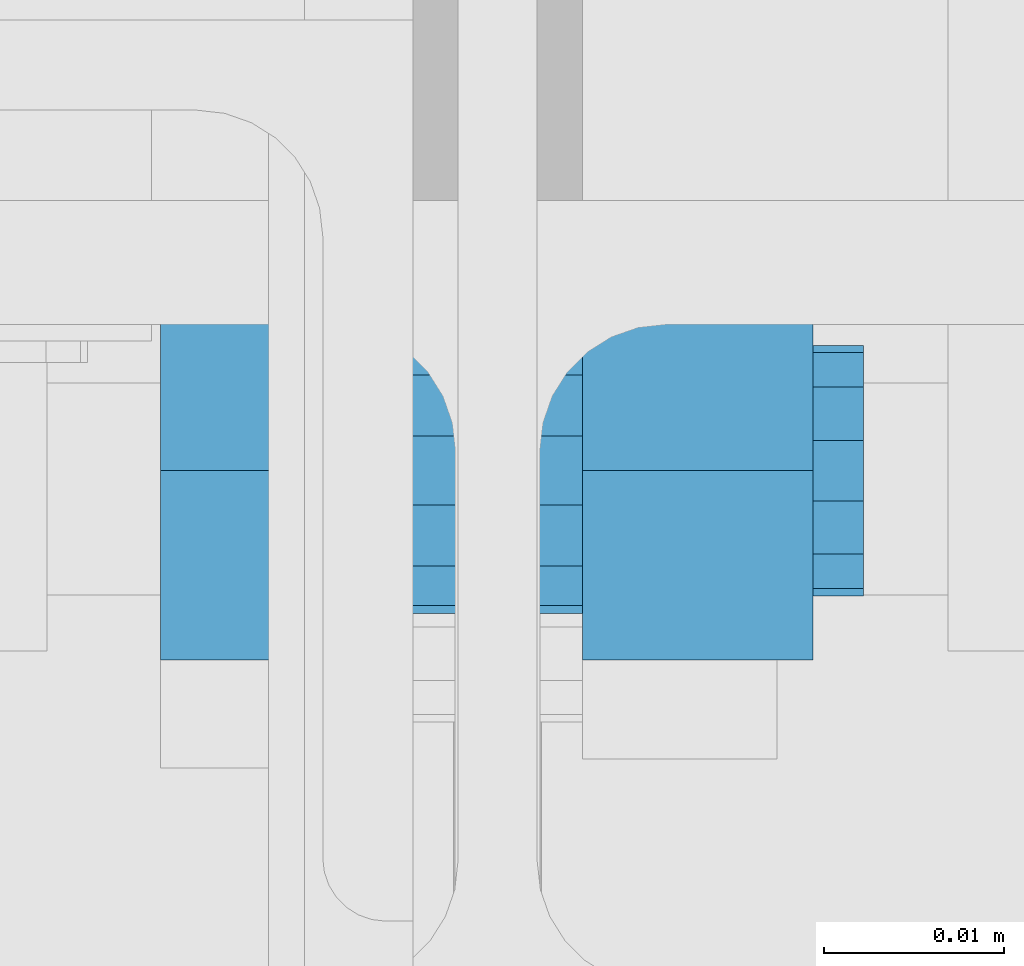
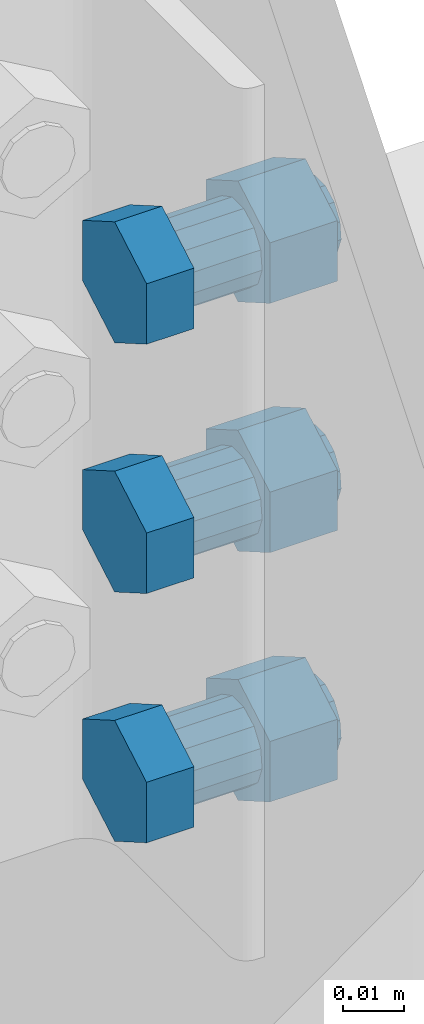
# One storey, part 12 of 18: 1 mechanical fastener.
"""IFC2X3 building model written with IfcOpenShell, lengths in millimetres."""

from ifc_helpers import new_model, si_unit, frame, origin_with_axes, place, context, subcontext, project, spatial, faceted_brep, source, transform, mapped, type_object, element, save


model = new_model("IFC2X3")

# Units and contexts
model_context = context("Model", 3, precision=1e-05, world=origin_with_axes())
body_context = subcontext(model_context, "Body", "Model", "MODEL_VIEW")
ifc_project = project(units=[si_unit("LENGTHUNIT", "METRE", prefix="MILLI"), si_unit("AREAUNIT", "SQUARE_METRE"), si_unit("VOLUMEUNIT", "CUBIC_METRE"), si_unit("MASSUNIT", "GRAM", prefix="KILO"), si_unit("TIMEUNIT", "SECOND"), si_unit("PLANEANGLEUNIT", "RADIAN"), si_unit("SOLIDANGLEUNIT", "STERADIAN"), si_unit("THERMODYNAMICTEMPERATUREUNIT", "DEGREE_CELSIUS"), si_unit("LUMINOUSINTENSITYUNIT", "LUMEN")], contexts=[model_context])

# Site, building, storey
site_placement = place(None, origin_with_axes())
site = spatial("IfcSite", under=ifc_project, at=site_placement, Name="Undefined", CompositionType="ELEMENT")
building_placement = place(site_placement, origin_with_axes())
building = spatial("IfcBuilding", under=site, at=building_placement, Name="Undefined", CompositionType="ELEMENT")
storey_placement = place(building_placement, origin_with_axes())
storey = spatial("IfcBuildingStorey", under=building, at=storey_placement, Name="Undefined", CompositionType="ELEMENT", Elevation=0.0)

# Mechanical fastener
mechanical_fastener_type = type_object("IfcMechanicalFastenerType", Name="Bolt assembly")
shared_shape_1 = source(origin_with_axes(), body_context, "Body", "Brep", [
    faceted_brep([(12.12435565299, -18.700009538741, 0.0), (6.062177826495, -18.700009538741, 10.5000000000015), (-6.062177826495, -18.700009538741, 10.5000000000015), (-12.12435565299, -18.700009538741, 0.0), (-6.062177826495, -18.700009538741, -10.5000000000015), (6.062177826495, -18.700009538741, -10.5000000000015), (6.062177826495, -9.700009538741, -10.5000000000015), (-6.062177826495, -9.700009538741, -10.5000000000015), (-12.12435565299, -9.700009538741, 0.0), (-6.062177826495, -9.700009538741, 10.5000000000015), (6.062177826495, -9.700009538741, 10.5000000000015), (12.12435565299, -9.700009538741, 0.0), (7.0, -9.700009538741, 0.0), (6.19819217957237, -9.700009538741, 3.25306220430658), (3.97645322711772, -9.700009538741, 5.76088706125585), (0.843756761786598, -9.700009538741, 6.94896211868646), (-2.48223420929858, -9.700009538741, 6.54511369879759), (-5.23957523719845, -9.700009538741, 4.64185860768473), (-6.79659272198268, -9.700009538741, 1.67520965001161), (-6.79659272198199, -9.700009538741, -1.67520965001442), (-5.23957523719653, -9.700009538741, -4.6418586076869), (-2.48223420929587, -9.700009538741, -6.54511369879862), (0.843756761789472, -9.700009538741, -6.94896211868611), (3.97645322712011, -9.700009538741, -5.7608870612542), (3.97645322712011, 20.299990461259, -5.7608870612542), (0.843756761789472, 20.299990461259, -6.94896211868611), (-2.48223420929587, 20.299990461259, -6.54511369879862), (-5.23957523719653, 20.299990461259, -4.6418586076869), (-6.79659272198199, 20.299990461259, -1.67520965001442), (-6.79659272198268, 20.299990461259, 1.67520965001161), (-5.23957523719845, 20.299990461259, 4.64185860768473), (-2.48223420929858, 20.299990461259, 6.54511369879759), (0.843756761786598, 20.299990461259, 6.94896211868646), (3.97645322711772, 20.299990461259, 5.76088706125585), (6.19819217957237, 20.299990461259, 3.25306220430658), (7.0, 20.299990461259, 0.0), (12.12435565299, 4.69999008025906, 0.0), (6.062177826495, 4.69999008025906, 10.5000000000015), (-6.062177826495, 4.69999008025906, 10.5000000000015), (-12.12435565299, 4.69999008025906, 0.0), (-6.062177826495, 4.69999008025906, -10.5000000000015), (6.062177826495, 4.69999008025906, -10.5000000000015), (6.062177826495, 17.4999902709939, -10.5000000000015), (-6.062177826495, 17.4999902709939, -10.5000000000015), (-12.12435565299, 17.4999902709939, 0.0), (-6.062177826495, 17.4999902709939, 10.5000000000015), (6.062177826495, 17.4999902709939, 10.5000000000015), (12.12435565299, 17.4999902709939, 0.0)], [[[0, 1, 2, 3, 4, 5]], [[6, 7, 8, 9, 10, 11]], [[0, 11, 10, 1]], [[1, 10, 9, 2]], [[2, 9, 8, 3]], [[3, 8, 7, 4]], [[4, 7, 6, 5]], [[5, 6, 11, 0]], [[12, 13, 14, 15, 16, 17, 18, 19, 20, 21, 22, 23]], [[24, 25, 26, 27, 28, 29, 30, 31, 32, 33, 34, 35]], [[12, 35, 34, 13]], [[13, 34, 33, 14]], [[14, 33, 32, 15]], [[15, 32, 31, 16]], [[16, 31, 30, 17]], [[17, 30, 29, 18]], [[18, 29, 28, 19]], [[19, 28, 27, 20]], [[20, 27, 26, 21]], [[21, 26, 25, 22]], [[22, 25, 24, 23]], [[23, 24, 35, 12]], [[36, 37, 38, 39, 40, 41]], [[42, 43, 44, 45, 46, 47]], [[36, 47, 46, 37]], [[37, 46, 45, 38]], [[38, 45, 44, 39]], [[39, 44, 43, 40]], [[40, 43, 42, 41]], [[41, 42, 47, 36]]]),
    faceted_brep([(8.0, -4.80000953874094, 0.0), (7.08364820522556, -4.80000953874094, 3.71778537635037), (4.54451797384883, -4.80000953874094, 6.58387092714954), (0.964293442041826, -4.80000953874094, 7.94167099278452), (-2.83683909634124, -4.80000953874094, 7.48012994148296), (-5.98808598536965, -4.80000953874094, 5.30498126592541), (-7.76753453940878, -4.80000953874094, 1.91452531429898), (-7.76753453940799, -4.80000953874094, -1.91452531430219), (-5.98808598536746, -4.80000953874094, -5.30498126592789), (-2.83683909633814, -4.80000953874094, -7.48012994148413), (0.964293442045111, -4.80000953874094, -7.94167099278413), (4.54451797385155, -4.80000953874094, -6.58387092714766), (4.54451797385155, 4.69999008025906, -6.58387092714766), (0.964293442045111, 4.69999008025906, -7.94167099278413), (-2.83683909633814, 4.69999008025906, -7.48012994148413), (-5.98808598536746, 4.69999008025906, -5.30498126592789), (-7.76753453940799, 4.69999008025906, -1.91452531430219), (-7.76753453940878, 4.69999008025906, 1.91452531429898), (-5.98808598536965, 4.69999008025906, 5.30498126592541), (-2.83683909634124, 4.69999008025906, 7.48012994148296), (0.964293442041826, 4.69999008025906, 7.94167099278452), (4.54451797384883, 4.69999008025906, 6.58387092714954), (7.08364820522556, 4.69999008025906, 3.71778537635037), (8.0, 4.69999008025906, 0.0), (8.0, -9.600009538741, 0.0), (7.08364820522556, -9.600009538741, 3.71778537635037), (4.54451797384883, -9.600009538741, 6.58387092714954), (0.964293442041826, -9.600009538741, 7.94167099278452), (-2.83683909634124, -9.600009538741, 7.48012994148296), (-5.98808598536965, -9.600009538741, 5.30498126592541), (-7.76753453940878, -9.600009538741, 1.91452531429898), (-7.76753453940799, -9.600009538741, -1.91452531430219), (-5.98808598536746, -9.600009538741, -5.30498126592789), (-2.83683909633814, -9.600009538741, -7.48012994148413), (0.964293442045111, -9.600009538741, -7.94167099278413), (4.54451797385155, -9.600009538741, -6.58387092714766), (4.54451797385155, -4.600009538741, -6.58387092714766), (0.964293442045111, -4.600009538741, -7.94167099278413), (-2.83683909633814, -4.600009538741, -7.48012994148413), (-5.98808598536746, -4.600009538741, -5.30498126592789), (-7.76753453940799, -4.600009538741, -1.91452531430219), (-7.76753453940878, -4.600009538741, 1.91452531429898), (-5.98808598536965, -4.600009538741, 5.30498126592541), (-2.83683909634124, -4.600009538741, 7.48012994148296), (0.964293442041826, -4.600009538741, 7.94167099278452), (4.54451797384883, -4.600009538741, 6.58387092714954), (7.08364820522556, -4.600009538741, 3.71778537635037), (8.0, -4.600009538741, 0.0)], [[[0, 1, 2, 3, 4, 5, 6, 7, 8, 9, 10, 11]], [[12, 13, 14, 15, 16, 17, 18, 19, 20, 21, 22, 23]], [[0, 23, 22, 1]], [[1, 22, 21, 2]], [[2, 21, 20, 3]], [[3, 20, 19, 4]], [[4, 19, 18, 5]], [[5, 18, 17, 6]], [[6, 17, 16, 7]], [[7, 16, 15, 8]], [[8, 15, 14, 9]], [[9, 14, 13, 10]], [[10, 13, 12, 11]], [[11, 12, 23, 0]], [[24, 25, 26, 27, 28, 29, 30, 31, 32, 33, 34, 35]], [[36, 37, 38, 39, 40, 41, 42, 43, 44, 45, 46, 47]], [[24, 47, 46, 25]], [[25, 46, 45, 26]], [[26, 45, 44, 27]], [[27, 44, 43, 28]], [[28, 43, 42, 29]], [[29, 42, 41, 30]], [[30, 41, 40, 31]], [[31, 40, 39, 32]], [[32, 39, 38, 33]], [[33, 38, 37, 34]], [[34, 37, 36, 35]], [[35, 36, 47, 24]]]),
])
shared_shape_2 = source(origin_with_axes(), body_context, "Body", "Brep", [
    faceted_brep([(12.12435565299, -18.700009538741, 0.0), (6.062177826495, -18.700009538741, 10.5000000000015), (-6.062177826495, -18.700009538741, 10.5000000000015), (-12.12435565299, -18.700009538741, 0.0), (-6.062177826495, -18.700009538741, -10.5000000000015), (6.062177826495, -18.700009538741, -10.5000000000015), (6.062177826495, -9.700009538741, -10.5000000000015), (-6.062177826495, -9.700009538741, -10.5000000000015), (-12.12435565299, -9.700009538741, 0.0), (-6.062177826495, -9.700009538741, 10.5000000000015), (6.062177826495, -9.700009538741, 10.5000000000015), (12.12435565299, -9.700009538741, 0.0), (7.0, -9.700009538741, 0.0), (6.19819217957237, -9.700009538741, 3.25306220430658), (3.97645322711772, -9.700009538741, 5.76088706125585), (0.843756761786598, -9.700009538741, 6.94896211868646), (-2.48223420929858, -9.700009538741, 6.54511369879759), (-5.23957523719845, -9.700009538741, 4.64185860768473), (-6.79659272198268, -9.700009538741, 1.67520965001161), (-6.79659272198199, -9.700009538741, -1.67520965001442), (-5.23957523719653, -9.700009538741, -4.6418586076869), (-2.48223420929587, -9.700009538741, -6.54511369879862), (0.843756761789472, -9.700009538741, -6.94896211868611), (3.97645322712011, -9.700009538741, -5.7608870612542), (3.97645322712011, 20.299990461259, -5.7608870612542), (0.843756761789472, 20.299990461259, -6.94896211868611), (-2.48223420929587, 20.299990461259, -6.54511369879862), (-5.23957523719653, 20.299990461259, -4.6418586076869), (-6.79659272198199, 20.299990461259, -1.67520965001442), (-6.79659272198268, 20.299990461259, 1.67520965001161), (-5.23957523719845, 20.299990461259, 4.64185860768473), (-2.48223420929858, 20.299990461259, 6.54511369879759), (0.843756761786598, 20.299990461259, 6.94896211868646), (3.97645322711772, 20.299990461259, 5.76088706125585), (6.19819217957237, 20.299990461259, 3.25306220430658), (7.0, 20.299990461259, 0.0), (12.12435565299, 4.69999008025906, 0.0), (6.062177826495, 4.69999008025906, 10.5000000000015), (-6.062177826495, 4.69999008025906, 10.5000000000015), (-12.12435565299, 4.69999008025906, 0.0), (-6.062177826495, 4.69999008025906, -10.5000000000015), (6.062177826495, 4.69999008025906, -10.5000000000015), (6.062177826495, 17.4999902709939, -10.5000000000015), (-6.062177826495, 17.4999902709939, -10.5000000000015), (-12.12435565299, 17.4999902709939, 0.0), (-6.062177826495, 17.4999902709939, 10.5000000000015), (6.062177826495, 17.4999902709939, 10.5000000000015), (12.12435565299, 17.4999902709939, 0.0)], [[[0, 1, 2, 3, 4, 5]], [[6, 7, 8, 9, 10, 11]], [[0, 11, 10, 1]], [[1, 10, 9, 2]], [[2, 9, 8, 3]], [[3, 8, 7, 4]], [[4, 7, 6, 5]], [[5, 6, 11, 0]], [[12, 13, 14, 15, 16, 17, 18, 19, 20, 21, 22, 23]], [[24, 25, 26, 27, 28, 29, 30, 31, 32, 33, 34, 35]], [[12, 35, 34, 13]], [[13, 34, 33, 14]], [[14, 33, 32, 15]], [[15, 32, 31, 16]], [[16, 31, 30, 17]], [[17, 30, 29, 18]], [[18, 29, 28, 19]], [[19, 28, 27, 20]], [[20, 27, 26, 21]], [[21, 26, 25, 22]], [[22, 25, 24, 23]], [[23, 24, 35, 12]], [[36, 37, 38, 39, 40, 41]], [[42, 43, 44, 45, 46, 47]], [[36, 47, 46, 37]], [[37, 46, 45, 38]], [[38, 45, 44, 39]], [[39, 44, 43, 40]], [[40, 43, 42, 41]], [[41, 42, 47, 36]]]),
    faceted_brep([(8.0, -4.80000953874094, 0.0), (7.08364820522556, -4.80000953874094, 3.71778537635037), (4.54451797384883, -4.80000953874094, 6.58387092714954), (0.964293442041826, -4.80000953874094, 7.94167099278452), (-2.83683909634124, -4.80000953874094, 7.48012994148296), (-5.98808598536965, -4.80000953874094, 5.30498126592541), (-7.76753453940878, -4.80000953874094, 1.91452531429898), (-7.76753453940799, -4.80000953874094, -1.91452531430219), (-5.98808598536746, -4.80000953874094, -5.30498126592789), (-2.83683909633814, -4.80000953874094, -7.48012994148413), (0.964293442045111, -4.80000953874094, -7.94167099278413), (4.54451797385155, -4.80000953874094, -6.58387092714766), (4.54451797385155, 4.69999008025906, -6.58387092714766), (0.964293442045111, 4.69999008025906, -7.94167099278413), (-2.83683909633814, 4.69999008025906, -7.48012994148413), (-5.98808598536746, 4.69999008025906, -5.30498126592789), (-7.76753453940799, 4.69999008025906, -1.91452531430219), (-7.76753453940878, 4.69999008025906, 1.91452531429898), (-5.98808598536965, 4.69999008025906, 5.30498126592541), (-2.83683909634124, 4.69999008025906, 7.48012994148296), (0.964293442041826, 4.69999008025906, 7.94167099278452), (4.54451797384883, 4.69999008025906, 6.58387092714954), (7.08364820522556, 4.69999008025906, 3.71778537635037), (8.0, 4.69999008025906, 0.0), (8.0, -9.600009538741, 0.0), (7.08364820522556, -9.600009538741, 3.71778537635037), (4.54451797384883, -9.600009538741, 6.58387092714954), (0.964293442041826, -9.600009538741, 7.94167099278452), (-2.83683909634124, -9.600009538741, 7.48012994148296), (-5.98808598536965, -9.600009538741, 5.30498126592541), (-7.76753453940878, -9.600009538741, 1.91452531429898), (-7.76753453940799, -9.600009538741, -1.91452531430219), (-5.98808598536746, -9.600009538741, -5.30498126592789), (-2.83683909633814, -9.600009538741, -7.48012994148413), (0.964293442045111, -9.600009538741, -7.94167099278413), (4.54451797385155, -9.600009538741, -6.58387092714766), (4.54451797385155, -4.600009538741, -6.58387092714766), (0.964293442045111, -4.600009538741, -7.94167099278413), (-2.83683909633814, -4.600009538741, -7.48012994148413), (-5.98808598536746, -4.600009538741, -5.30498126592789), (-7.76753453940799, -4.600009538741, -1.91452531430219), (-7.76753453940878, -4.600009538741, 1.91452531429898), (-5.98808598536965, -4.600009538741, 5.30498126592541), (-2.83683909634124, -4.600009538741, 7.48012994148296), (0.964293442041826, -4.600009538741, 7.94167099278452), (4.54451797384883, -4.600009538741, 6.58387092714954), (7.08364820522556, -4.600009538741, 3.71778537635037), (8.0, -4.600009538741, 0.0)], [[[0, 1, 2, 3, 4, 5, 6, 7, 8, 9, 10, 11]], [[12, 13, 14, 15, 16, 17, 18, 19, 20, 21, 22, 23]], [[0, 23, 22, 1]], [[1, 22, 21, 2]], [[2, 21, 20, 3]], [[3, 20, 19, 4]], [[4, 19, 18, 5]], [[5, 18, 17, 6]], [[6, 17, 16, 7]], [[7, 16, 15, 8]], [[8, 15, 14, 9]], [[9, 14, 13, 10]], [[10, 13, 12, 11]], [[11, 12, 23, 0]], [[24, 25, 26, 27, 28, 29, 30, 31, 32, 33, 34, 35]], [[36, 37, 38, 39, 40, 41, 42, 43, 44, 45, 46, 47]], [[24, 47, 46, 25]], [[25, 46, 45, 26]], [[26, 45, 44, 27]], [[27, 44, 43, 28]], [[28, 43, 42, 29]], [[29, 42, 41, 30]], [[30, 41, 40, 31]], [[31, 40, 39, 32]], [[32, 39, 38, 33]], [[33, 38, 37, 34]], [[34, 37, 36, 35]], [[35, 36, 47, 24]]]),
])
shared_shape_3 = source(origin_with_axes(), body_context, "Body", "Brep", [
    faceted_brep([(12.12435565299, -18.700009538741, 0.0), (6.062177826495, -18.700009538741, 10.5000000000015), (-6.062177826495, -18.700009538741, 10.5000000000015), (-12.12435565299, -18.700009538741, 0.0), (-6.062177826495, -18.700009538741, -10.5000000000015), (6.062177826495, -18.700009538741, -10.5000000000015), (6.062177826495, -9.700009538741, -10.5000000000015), (-6.062177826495, -9.700009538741, -10.5000000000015), (-12.12435565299, -9.700009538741, 0.0), (-6.062177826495, -9.700009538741, 10.5000000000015), (6.062177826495, -9.700009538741, 10.5000000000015), (12.12435565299, -9.700009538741, 0.0), (7.0, -9.700009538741, 0.0), (6.19819217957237, -9.700009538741, 3.25306220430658), (3.97645322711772, -9.700009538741, 5.76088706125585), (0.843756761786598, -9.700009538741, 6.94896211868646), (-2.48223420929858, -9.700009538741, 6.54511369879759), (-5.23957523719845, -9.700009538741, 4.64185860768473), (-6.79659272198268, -9.700009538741, 1.67520965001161), (-6.79659272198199, -9.700009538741, -1.67520965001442), (-5.23957523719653, -9.700009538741, -4.6418586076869), (-2.48223420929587, -9.700009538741, -6.54511369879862), (0.843756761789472, -9.700009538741, -6.94896211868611), (3.97645322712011, -9.700009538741, -5.7608870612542), (3.97645322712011, 20.299990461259, -5.7608870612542), (0.843756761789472, 20.299990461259, -6.94896211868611), (-2.48223420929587, 20.299990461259, -6.54511369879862), (-5.23957523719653, 20.299990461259, -4.6418586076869), (-6.79659272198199, 20.299990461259, -1.67520965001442), (-6.79659272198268, 20.299990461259, 1.67520965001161), (-5.23957523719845, 20.299990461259, 4.64185860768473), (-2.48223420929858, 20.299990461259, 6.54511369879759), (0.843756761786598, 20.299990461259, 6.94896211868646), (3.97645322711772, 20.299990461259, 5.76088706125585), (6.19819217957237, 20.299990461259, 3.25306220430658), (7.0, 20.299990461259, 0.0), (12.12435565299, 4.69999008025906, 0.0), (6.062177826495, 4.69999008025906, 10.5000000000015), (-6.062177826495, 4.69999008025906, 10.5000000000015), (-12.12435565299, 4.69999008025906, 0.0), (-6.062177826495, 4.69999008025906, -10.5000000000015), (6.062177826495, 4.69999008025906, -10.5000000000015), (6.062177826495, 17.4999902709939, -10.5000000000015), (-6.062177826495, 17.4999902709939, -10.5000000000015), (-12.12435565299, 17.4999902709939, 0.0), (-6.062177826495, 17.4999902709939, 10.5000000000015), (6.062177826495, 17.4999902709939, 10.5000000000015), (12.12435565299, 17.4999902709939, 0.0)], [[[0, 1, 2, 3, 4, 5]], [[6, 7, 8, 9, 10, 11]], [[0, 11, 10, 1]], [[1, 10, 9, 2]], [[2, 9, 8, 3]], [[3, 8, 7, 4]], [[4, 7, 6, 5]], [[5, 6, 11, 0]], [[12, 13, 14, 15, 16, 17, 18, 19, 20, 21, 22, 23]], [[24, 25, 26, 27, 28, 29, 30, 31, 32, 33, 34, 35]], [[12, 35, 34, 13]], [[13, 34, 33, 14]], [[14, 33, 32, 15]], [[15, 32, 31, 16]], [[16, 31, 30, 17]], [[17, 30, 29, 18]], [[18, 29, 28, 19]], [[19, 28, 27, 20]], [[20, 27, 26, 21]], [[21, 26, 25, 22]], [[22, 25, 24, 23]], [[23, 24, 35, 12]], [[36, 37, 38, 39, 40, 41]], [[42, 43, 44, 45, 46, 47]], [[36, 47, 46, 37]], [[37, 46, 45, 38]], [[38, 45, 44, 39]], [[39, 44, 43, 40]], [[40, 43, 42, 41]], [[41, 42, 47, 36]]]),
    faceted_brep([(8.0, -4.80000953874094, 0.0), (7.08364820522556, -4.80000953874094, 3.71778537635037), (4.54451797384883, -4.80000953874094, 6.58387092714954), (0.964293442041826, -4.80000953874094, 7.94167099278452), (-2.83683909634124, -4.80000953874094, 7.48012994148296), (-5.98808598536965, -4.80000953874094, 5.30498126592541), (-7.76753453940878, -4.80000953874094, 1.91452531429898), (-7.76753453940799, -4.80000953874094, -1.91452531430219), (-5.98808598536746, -4.80000953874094, -5.30498126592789), (-2.83683909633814, -4.80000953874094, -7.48012994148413), (0.964293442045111, -4.80000953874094, -7.94167099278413), (4.54451797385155, -4.80000953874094, -6.58387092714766), (4.54451797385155, 4.69999008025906, -6.58387092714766), (0.964293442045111, 4.69999008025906, -7.94167099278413), (-2.83683909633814, 4.69999008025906, -7.48012994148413), (-5.98808598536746, 4.69999008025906, -5.30498126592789), (-7.76753453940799, 4.69999008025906, -1.91452531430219), (-7.76753453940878, 4.69999008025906, 1.91452531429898), (-5.98808598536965, 4.69999008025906, 5.30498126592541), (-2.83683909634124, 4.69999008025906, 7.48012994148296), (0.964293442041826, 4.69999008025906, 7.94167099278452), (4.54451797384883, 4.69999008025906, 6.58387092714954), (7.08364820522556, 4.69999008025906, 3.71778537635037), (8.0, 4.69999008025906, 0.0), (8.0, -9.600009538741, 0.0), (7.08364820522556, -9.600009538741, 3.71778537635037), (4.54451797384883, -9.600009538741, 6.58387092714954), (0.964293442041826, -9.600009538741, 7.94167099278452), (-2.83683909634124, -9.600009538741, 7.48012994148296), (-5.98808598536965, -9.600009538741, 5.30498126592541), (-7.76753453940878, -9.600009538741, 1.91452531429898), (-7.76753453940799, -9.600009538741, -1.91452531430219), (-5.98808598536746, -9.600009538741, -5.30498126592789), (-2.83683909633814, -9.600009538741, -7.48012994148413), (0.964293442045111, -9.600009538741, -7.94167099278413), (4.54451797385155, -9.600009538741, -6.58387092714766), (4.54451797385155, -4.600009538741, -6.58387092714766), (0.964293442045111, -4.600009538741, -7.94167099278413), (-2.83683909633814, -4.600009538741, -7.48012994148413), (-5.98808598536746, -4.600009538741, -5.30498126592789), (-7.76753453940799, -4.600009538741, -1.91452531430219), (-7.76753453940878, -4.600009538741, 1.91452531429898), (-5.98808598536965, -4.600009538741, 5.30498126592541), (-2.83683909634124, -4.600009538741, 7.48012994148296), (0.964293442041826, -4.600009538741, 7.94167099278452), (4.54451797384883, -4.600009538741, 6.58387092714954), (7.08364820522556, -4.600009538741, 3.71778537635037), (8.0, -4.600009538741, 0.0)], [[[0, 1, 2, 3, 4, 5, 6, 7, 8, 9, 10, 11]], [[12, 13, 14, 15, 16, 17, 18, 19, 20, 21, 22, 23]], [[0, 23, 22, 1]], [[1, 22, 21, 2]], [[2, 21, 20, 3]], [[3, 20, 19, 4]], [[4, 19, 18, 5]], [[5, 18, 17, 6]], [[6, 17, 16, 7]], [[7, 16, 15, 8]], [[8, 15, 14, 9]], [[9, 14, 13, 10]], [[10, 13, 12, 11]], [[11, 12, 23, 0]], [[24, 25, 26, 27, 28, 29, 30, 31, 32, 33, 34, 35]], [[36, 37, 38, 39, 40, 41, 42, 43, 44, 45, 46, 47]], [[24, 47, 46, 25]], [[25, 46, 45, 26]], [[26, 45, 44, 27]], [[27, 44, 43, 28]], [[28, 43, 42, 29]], [[29, 42, 41, 30]], [[30, 41, 40, 31]], [[31, 40, 39, 32]], [[32, 39, 38, 33]], [[33, 38, 37, 34]], [[34, 37, 36, 35]], [[35, 36, 47, 24]]]),
])
mechanical_fastener_placement = place(storey_placement, frame((9.72913415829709e-06, -99.9991946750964, 70.5831335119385), z_axis=(2.86064505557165e-14, -0.999999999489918, -3.19400002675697e-05), x_axis=(2.35338842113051e-13, 3.18999996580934e-05, -0.999999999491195)))
element("IfcMechanicalFastener", 1, at=mechanical_fastener_placement, inside=storey, type_object=mechanical_fastener_type, Name="Bolt assembly", NominalDiameter=14.0, NominalLength=35.0, context=body_context, shape_type="MappedRepresentation", body=[
    mapped(shared_shape_1, transform((0.0, 0.0, 0.0))),
    mapped(shared_shape_2, transform((50.0, 0.0, 0.0))),
    mapped(shared_shape_3, transform((100.0, 0.0, -5.04870979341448e-27))),
])

save(model, "model.ifc")
